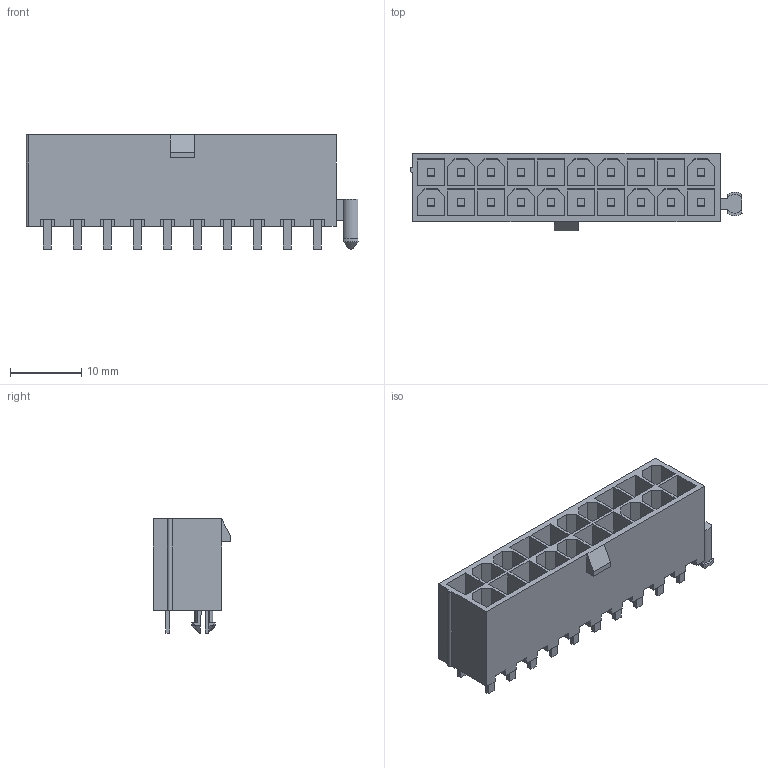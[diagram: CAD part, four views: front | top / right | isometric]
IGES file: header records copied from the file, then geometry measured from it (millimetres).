
Start section:  PTC IGES file: c-3-1775099-7-e-3d.igs
Global section: file name: c-3-1775099-7-e-3d.igs; native system: Creo Parametric by PTC Inc.; preprocessor: 2016050; author: workeradm; organization: Unknown; units: millimetre
Bounding box: 46.5 x 10.9 x 16 mm (x, y, z)
Surface area: 5771.5 mm2 (no closed solid volume)
Topology: 0 solids, 0 shells, 450 faces, 2306 edges, 2306 vertices
Faces by surface type: bspline 438, revolution 12
